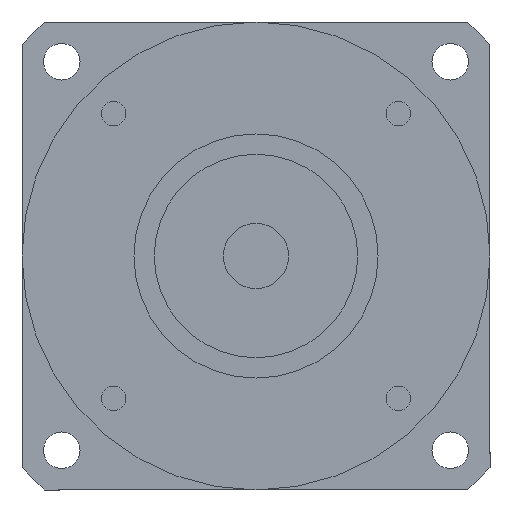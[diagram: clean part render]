
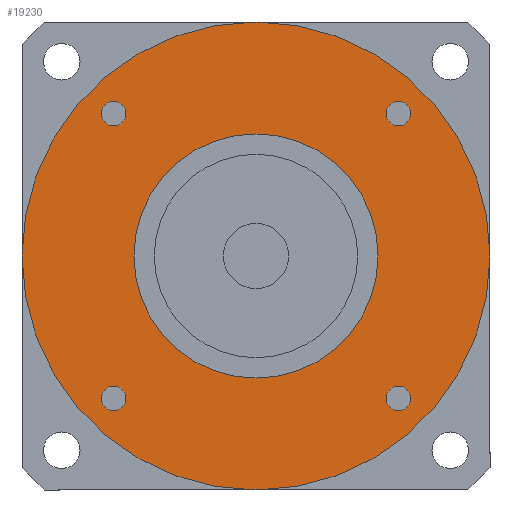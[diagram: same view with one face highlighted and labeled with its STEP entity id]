
A CAD part, left-side view. The second image highlights one B-rep face of the part: STEP entity #19230.
In plain terms, the highlighted planar face has unit normal (-1, 0, 0) as drawn and (0, 0, -1) by its records, which use the part's own axes.
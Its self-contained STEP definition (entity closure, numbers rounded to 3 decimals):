
#15820=CARTESIAN_POINT('',(0.,0.,
-101.));
#15830=DIRECTION('',(0.,0.,1.));
#15840=DIRECTION('',(0.,-1.,0.));
#15850=AXIS2_PLACEMENT_3D('',#15820,#15830,#15840);
#15860=CIRCLE('',#15850,30.);
#15870=CARTESIAN_POINT('',(0.,-30.,-101.));
#15880=VERTEX_POINT('',#15870);
#15890=CARTESIAN_POINT('',(30.,0.,-101.));
#15900=VERTEX_POINT('',#15890);
#15910=EDGE_CURVE('',#15880,#15900,#15860,.T.);
#16140=CARTESIAN_POINT('',(-30.,0.,-101.));
#16150=VERTEX_POINT('',#16140);
#16180=EDGE_CURVE('',#16150,#15880,#15860,.T.);
#16320=CARTESIAN_POINT('',(-32.002,-35.002,-101.));
#16330=VERTEX_POINT('',#16320);
#16510=CARTESIAN_POINT('',(-38.002,-35.002,-101.));
#16520=VERTEX_POINT('',#16510);
#16550=CARTESIAN_POINT('',(-35.002,-35.002,-101.));
#16560=DIRECTION('',(0.,0.,-1.));
#16570=DIRECTION('',(0.,-1.,0.));
#16580=AXIS2_PLACEMENT_3D('',#16550,#16560,#16570);
#16590=CIRCLE('',#16580,3.);
#16600=CARTESIAN_POINT('',(-35.002,-38.002,-101.));
#16610=VERTEX_POINT('',#16600);
#16620=EDGE_CURVE('',#16610,#16520,#16590,.T.);
#16640=EDGE_CURVE('',#16330,#16610,#16590,.T.);
#18160=CARTESIAN_POINT('',(57.5,0.,-101.));
#18170=VERTEX_POINT('',#18160);
#18200=CARTESIAN_POINT('',(0.,0.,
-101.));
#18210=DIRECTION('',(0.,0.,1.));
#18220=DIRECTION('',(0.,-1.,0.));
#18230=AXIS2_PLACEMENT_3D('',#18200,#18210,#18220);
#18240=CIRCLE('',#18230,57.5);
#18250=CARTESIAN_POINT('',(0.,-57.5,-101.));
#18260=VERTEX_POINT('',#18250);
#18270=EDGE_CURVE('',#18260,#18170,#18240,.T.);
#18290=CARTESIAN_POINT('',(-57.5,0.,-101.));
#18300=VERTEX_POINT('',#18290);
#18310=EDGE_CURVE('',#18300,#18260,#18240,.T.);
#18430=CARTESIAN_POINT('',(0.,0.,
-101.));
#18440=DIRECTION('',(0.,0.,1.));
#18450=DIRECTION('',(-1.,0.,0.));
#18460=AXIS2_PLACEMENT_3D('',#18430,#18440,#18450);
#18470=PLANE('',#18460);
#18480=CARTESIAN_POINT('',(35.002,-35.002,-101.));
#18490=DIRECTION('',(0.,0.,-1.));
#18500=DIRECTION('',(1.,0.,0.));
#18510=AXIS2_PLACEMENT_3D('',#18480,#18490,#18500);
#18520=CIRCLE('',#18510,3.);
#18530=CARTESIAN_POINT('',(38.002,-35.002,-101.));
#18540=VERTEX_POINT('',#18530);
#18550=CARTESIAN_POINT('',(35.002,-38.002,-101.));
#18560=VERTEX_POINT('',#18550);
#18570=EDGE_CURVE('',#18540,#18560,#18520,.T.);
#18580=ORIENTED_EDGE('',*,*,#18570,.F.);
#18590=CARTESIAN_POINT('',(35.002,-32.002,-101.));
#18600=VERTEX_POINT('',#18590);
#18610=EDGE_CURVE('',#18560,#18600,#18520,.T.);
#18620=ORIENTED_EDGE('',*,*,#18610,.F.);
#18630=EDGE_CURVE('',#18600,#18540,#18520,.T.);
#18640=ORIENTED_EDGE('',*,*,#18630,.F.);
#18650=EDGE_LOOP('',(#18640,#18620,#18580));
#18660=FACE_BOUND('',#18650,.T.);
#18670=CARTESIAN_POINT('',(35.002,35.002,-101.));
#18680=DIRECTION('',(0.,0.,-1.));
#18690=DIRECTION('',(0.,1.,0.));
#18700=AXIS2_PLACEMENT_3D('',#18670,#18680,#18690);
#18710=CIRCLE('',#18700,3.);
#18720=CARTESIAN_POINT('',(35.002,38.002,-101.));
#18730=VERTEX_POINT('',#18720);
#18740=CARTESIAN_POINT('',(38.002,35.002,-101.));
#18750=VERTEX_POINT('',#18740);
#18760=EDGE_CURVE('',#18730,#18750,#18710,.T.);
#18770=ORIENTED_EDGE('',*,*,#18760,.F.);
#18780=CARTESIAN_POINT('',(32.002,35.002,-101.));
#18790=VERTEX_POINT('',#18780);
#18800=EDGE_CURVE('',#18750,#18790,#18710,.T.);
#18810=ORIENTED_EDGE('',*,*,#18800,.F.);
#18820=EDGE_CURVE('',#18790,#18730,#18710,.T.);
#18830=ORIENTED_EDGE('',*,*,#18820,.F.);
#18840=EDGE_LOOP('',(#18830,#18810,#18770));
#18850=FACE_BOUND('',#18840,.T.);
#18860=CARTESIAN_POINT('',(-35.002,35.002,-101.));
#18870=DIRECTION('',(0.,0.,-1.));
#18880=DIRECTION('',(-1.,0.,0.));
#18890=AXIS2_PLACEMENT_3D('',#18860,#18870,#18880);
#18900=CIRCLE('',#18890,3.);
#18910=CARTESIAN_POINT('',(-38.002,35.002,-101.));
#18920=VERTEX_POINT('',#18910);
#18930=CARTESIAN_POINT('',(-35.002,38.002,-101.));
#18940=VERTEX_POINT('',#18930);
#18950=EDGE_CURVE('',#18920,#18940,#18900,.T.);
#18960=ORIENTED_EDGE('',*,*,#18950,.F.);
#18970=CARTESIAN_POINT('',(-35.002,32.002,-101.));
#18980=VERTEX_POINT('',#18970);
#18990=EDGE_CURVE('',#18940,#18980,#18900,.T.);
#19000=ORIENTED_EDGE('',*,*,#18990,.F.);
#19010=EDGE_CURVE('',#18980,#18920,#18900,.T.);
#19020=ORIENTED_EDGE('',*,*,#19010,.F.);
#19030=EDGE_LOOP('',(#19020,#19000,#18960));
#19040=FACE_BOUND('',#19030,.T.);
#19050=ORIENTED_EDGE('',*,*,#16620,.F.);
#19060=EDGE_CURVE('',#16520,#16330,#16590,.T.);
#19070=ORIENTED_EDGE('',*,*,#19060,.F.);
#19080=ORIENTED_EDGE('',*,*,#16640,.F.);
#19090=EDGE_LOOP('',(#19080,#19070,#19050));
#19100=FACE_BOUND('',#19090,.T.);
#19110=ORIENTED_EDGE('',*,*,#18270,.F.);
#19120=EDGE_CURVE('',#18170,#18300,#18240,.T.);
#19130=ORIENTED_EDGE('',*,*,#19120,.F.);
#19140=ORIENTED_EDGE('',*,*,#18310,.F.);
#19150=EDGE_LOOP('',(#19140,#19130,#19110));
#19160=FACE_OUTER_BOUND('',#19150,.T.);
#19170=EDGE_CURVE('',#15900,#16150,#15860,.T.);
#19180=ORIENTED_EDGE('',*,*,#19170,.T.);
#19190=ORIENTED_EDGE('',*,*,#15910,.T.);
#19200=ORIENTED_EDGE('',*,*,#16180,.T.);
#19210=EDGE_LOOP('',(#19200,#19190,#19180));
#19220=FACE_BOUND('',#19210,.T.);
#19230=ADVANCED_FACE('',(#18660,#18850,#19040,#19100,#19160,#19220),
#18470,.F.);
